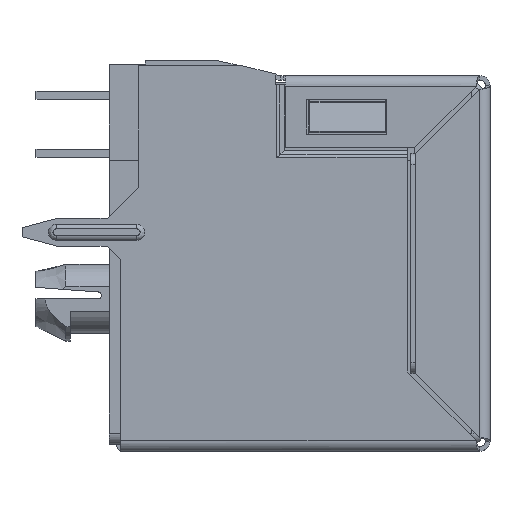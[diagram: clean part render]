
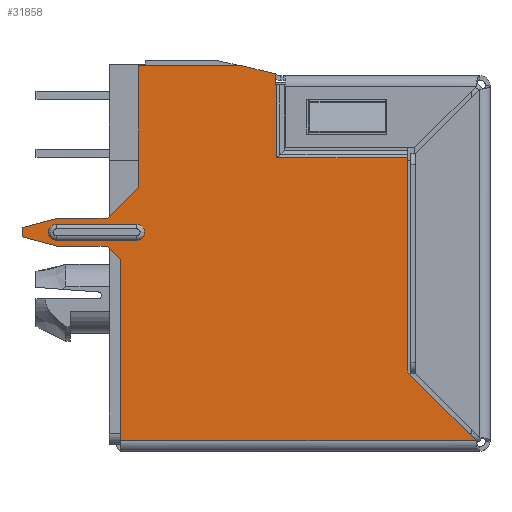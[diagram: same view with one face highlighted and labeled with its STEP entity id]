
A CAD part, left-side view. The second image highlights one B-rep face of the part: STEP entity #31858.
In plain terms, the highlighted planar face has unit normal (-1, 0, 0).
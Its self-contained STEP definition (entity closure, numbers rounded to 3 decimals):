
#27187=DIRECTION('',(0.,0.707,0.707));
#27188=VECTOR('',#27187,0.834);
#27189=CARTESIAN_POINT('',(14.57,22.311,-5.727));
#27190=LINE('',#27189,#27188);
#27191=DIRECTION('',(0.,0.966,0.259));
#27192=VECTOR('',#27191,1.545);
#27193=CARTESIAN_POINT('',(14.57,25.118,-5.137));
#27194=LINE('',#27193,#27192);
#27195=DIRECTION('',(0.,-0.966,0.259));
#27196=VECTOR('',#27195,1.545);
#27197=CARTESIAN_POINT('',(14.57,26.611,-4.337));
#27198=LINE('',#27197,#27196);
#27199=DIRECTION('',(0.,-0.707,0.707));
#27200=VECTOR('',#27199,1.937);
#27201=CARTESIAN_POINT('',(14.57,22.901,-3.937));
#27202=LINE('',#27201,#27200);
#27203=DIRECTION('',(0.,-0.972,-0.237));
#27204=VECTOR('',#27203,1.478);
#27205=CARTESIAN_POINT('',(14.57,16.997,2.713));
#27206=LINE('',#27205,#27204);
#27207=DIRECTION('',(0.,0.,-1.));
#27208=VECTOR('',#27207,0.47);
#27209=CARTESIAN_POINT('',(14.57,15.561,2.363));
#27210=LINE('',#27209,#27208);
#27211=DIRECTION('',(0.,-1.,0.));
#27212=VECTOR('',#27211,0.05);
#27213=CARTESIAN_POINT('',(14.57,15.561,1.893));
#27214=LINE('',#27213,#27212);
#27215=DIRECTION('',(0.,-0.707,-0.707));
#27216=VECTOR('',#27215,4.248);
#27217=CARTESIAN_POINT('',(14.57,9.811,-10.628));
#27218=LINE('',#27217,#27216);
#27219=CARTESIAN_POINT('',(14.57,25.111,-4.537));
#27220=DIRECTION('',(-1.,0.,0.));
#27221=DIRECTION('',(0.,0.,1.));
#27222=AXIS2_PLACEMENT_3D('',#27219,#27220,#27221);
#27224=CARTESIAN_POINT('',(14.57,21.611,-4.537));
#27225=DIRECTION('',(-1.,0.,0.));
#27226=DIRECTION('',(0.,0.,-1.));
#27227=AXIS2_PLACEMENT_3D('',#27224,#27225,#27226);
#27229=DIRECTION('',(0.,-1.,0.));
#27230=VECTOR('',#27229,15.504);
#27231=CARTESIAN_POINT('',(14.57,22.311,-13.632));
#27232=LINE('',#27231,#27230);
#28242=DIRECTION('',(0.,1.,0.));
#28243=VECTOR('',#28242,4.534);
#28244=CARTESIAN_POINT('',(14.57,16.997,2.713));
#28245=LINE('',#28244,#28243);
#29334=DIRECTION('',(0.,0.,-1.));
#29335=VECTOR('',#29334,5.28);
#29336=CARTESIAN_POINT('',(14.57,21.531,2.713));
#29337=LINE('',#29336,#29335);
#29350=DIRECTION('',(0.,1.,0.));
#29351=VECTOR('',#29350,2.217);
#29352=CARTESIAN_POINT('',(14.57,22.901,-3.937));
#29353=LINE('',#29352,#29351);
#29366=DIRECTION('',(0.,0.,-1.));
#29367=VECTOR('',#29366,0.4);
#29368=CARTESIAN_POINT('',(14.57,26.611,-4.337));
#29369=LINE('',#29368,#29367);
#29382=DIRECTION('',(0.,-1.,0.));
#29383=VECTOR('',#29382,2.217);
#29384=CARTESIAN_POINT('',(14.57,25.118,-5.137));
#29385=LINE('',#29384,#29383);
#29415=DIRECTION('',(0.,0.,-1.));
#29416=VECTOR('',#29415,7.905);
#29417=CARTESIAN_POINT('',(14.57,22.311,-5.727));
#29418=LINE('',#29417,#29416);
#29570=DIRECTION('',(0.,0.,1.));
#29571=VECTOR('',#29570,9.331);
#29572=CARTESIAN_POINT('',(14.57,9.811,-10.628));
#29573=LINE('',#29572,#29571);
#29670=DIRECTION('',(0.,1.,0.));
#29671=VECTOR('',#29670,5.7);
#29672=CARTESIAN_POINT('',(14.57,9.811,-1.297));
#29673=LINE('',#29672,#29671);
#29681=DIRECTION('',(0.,0.,1.));
#29682=VECTOR('',#29681,3.19);
#29683=CARTESIAN_POINT('',(14.57,15.511,-1.297));
#29684=LINE('',#29683,#29682);
#30037=DIRECTION('',(0.,1.,0.));
#30038=VECTOR('',#30037,3.5);
#30039=CARTESIAN_POINT('',(14.57,21.611,
-4.887));
#30040=LINE('',#30039,#30038);
#30064=DIRECTION('',(0.,-1.,0.));
#30065=VECTOR('',#30064,3.5);
#30066=CARTESIAN_POINT('',(14.57,25.111,-4.187));
#30067=LINE('',#30066,#30065);
#30318=CARTESIAN_POINT('',(14.57,15.561,1.893));
#30320=VERTEX_POINT('',#30318);
#30322=CARTESIAN_POINT('',(14.57,15.561,2.363));
#30323=VERTEX_POINT('',#30322);
#30324=CARTESIAN_POINT('',(14.57,15.511,1.893));
#30325=VERTEX_POINT('',#30324);
#30338=CARTESIAN_POINT('',(14.57,22.311,-5.727));
#30339=CARTESIAN_POINT('',(14.57,22.901,-5.137));
#30340=VERTEX_POINT('',#30338);
#30341=VERTEX_POINT('',#30339);
#30342=CARTESIAN_POINT('',(14.57,25.118,-5.137));
#30343=CARTESIAN_POINT('',(14.57,26.611,-4.737));
#30344=VERTEX_POINT('',#30342);
#30345=VERTEX_POINT('',#30343);
#30346=CARTESIAN_POINT('',(14.57,26.611,-4.337));
#30347=CARTESIAN_POINT('',(14.57,25.118,-3.937));
#30348=VERTEX_POINT('',#30346);
#30349=VERTEX_POINT('',#30347);
#30350=CARTESIAN_POINT('',(14.57,22.901,-3.937));
#30351=CARTESIAN_POINT('',(14.57,21.531,-2.567));
#30352=VERTEX_POINT('',#30350);
#30353=VERTEX_POINT('',#30351);
#30354=CARTESIAN_POINT('',(14.57,16.997,2.713));
#30355=VERTEX_POINT('',#30354);
#30356=CARTESIAN_POINT('',(14.57,9.811,-10.628));
#30357=CARTESIAN_POINT('',(14.57,6.807,-13.632));
#30358=VERTEX_POINT('',#30356);
#30359=VERTEX_POINT('',#30357);
#30360=CARTESIAN_POINT('',(14.57,25.111,-4.187));
#30361=CARTESIAN_POINT('',(14.57,25.111,-4.887));
#30362=VERTEX_POINT('',#30360);
#30363=VERTEX_POINT('',#30361);
#30364=CARTESIAN_POINT('',(14.57,21.611,-4.887));
#30365=CARTESIAN_POINT('',(14.57,21.611,-4.187));
#30366=VERTEX_POINT('',#30364);
#30367=VERTEX_POINT('',#30365);
#30372=CARTESIAN_POINT('',(14.57,22.311,-13.632));
#30373=VERTEX_POINT('',#30372);
#30734=CARTESIAN_POINT('',(14.57,21.531,2.713));
#30735=VERTEX_POINT('',#30734);
#30994=CARTESIAN_POINT('',(14.57,9.811,-1.297));
#30995=VERTEX_POINT('',#30994);
#31016=CARTESIAN_POINT('',(14.57,15.511,-1.297));
#31017=VERTEX_POINT('',#31016);
#31807=CARTESIAN_POINT('',(14.57,16.709,-5.459));
#31808=DIRECTION('',(1.,0.,0.));
#31809=DIRECTION('',(0.,1.,0.));
#31810=AXIS2_PLACEMENT_3D('',#31807,#31808,#31809);
#31811=PLANE('',#31810);
#31813=ORIENTED_EDGE('',*,*,#31812,.F.);
#31815=ORIENTED_EDGE('',*,*,#31814,.F.);
#31817=ORIENTED_EDGE('',*,*,#31816,.T.);
#31819=ORIENTED_EDGE('',*,*,#31818,.F.);
#31821=ORIENTED_EDGE('',*,*,#31820,.T.);
#31823=ORIENTED_EDGE('',*,*,#31822,.F.);
#31825=ORIENTED_EDGE('',*,*,#31824,.T.);
#31827=ORIENTED_EDGE('',*,*,#31826,.F.);
#31829=ORIENTED_EDGE('',*,*,#31828,.T.);
#31831=ORIENTED_EDGE('',*,*,#31830,.F.);
#31833=ORIENTED_EDGE('',*,*,#31832,.F.);
#31835=ORIENTED_EDGE('',*,*,#31834,.T.);
#31836=ORIENTED_EDGE('',*,*,#31768,.T.);
#31837=ORIENTED_EDGE('',*,*,#31785,.T.);
#31839=ORIENTED_EDGE('',*,*,#31838,.F.);
#31841=ORIENTED_EDGE('',*,*,#31840,.F.);
#31843=ORIENTED_EDGE('',*,*,#31842,.F.);
#31845=ORIENTED_EDGE('',*,*,#31844,.T.);
#31846=EDGE_LOOP('',(#31813,#31815,#31817,#31819,#31821,#31823,#31825,#31827,
#31829,#31831,#31833,#31835,#31836,#31837,#31839,#31841,#31843,#31845));
#31847=FACE_OUTER_BOUND('',#31846,.F.);
#31849=ORIENTED_EDGE('',*,*,#31848,.T.);
#31851=ORIENTED_EDGE('',*,*,#31850,.F.);
#31853=ORIENTED_EDGE('',*,*,#31852,.T.);
#31855=ORIENTED_EDGE('',*,*,#31854,.F.);
#31856=EDGE_LOOP('',(#31849,#31851,#31853,#31855));
#31857=FACE_BOUND('',#31856,.F.);
#31858=ADVANCED_FACE('',(#31847,#31857),#31811,.F.);
#27223=CIRCLE('',#27222,0.35);
#27228=CIRCLE('',#27227,0.35);
#31768=EDGE_CURVE('',#30323,#30320,#27210,.T.);
#31785=EDGE_CURVE('',#30320,#30325,#27214,.T.);
#31812=EDGE_CURVE('',#30373,#30359,#27232,.T.);
#31814=EDGE_CURVE('',#30340,#30373,#29418,.T.);
#31816=EDGE_CURVE('',#30340,#30341,#27190,.T.);
#31818=EDGE_CURVE('',#30344,#30341,#29385,.T.);
#31820=EDGE_CURVE('',#30344,#30345,#27194,.T.);
#31822=EDGE_CURVE('',#30348,#30345,#29369,.T.);
#31824=EDGE_CURVE('',#30348,#30349,#27198,.T.);
#31826=EDGE_CURVE('',#30352,#30349,#29353,.T.);
#31828=EDGE_CURVE('',#30352,#30353,#27202,.T.);
#31830=EDGE_CURVE('',#30735,#30353,#29337,.T.);
#31832=EDGE_CURVE('',#30355,#30735,#28245,.T.);
#31834=EDGE_CURVE('',#30355,#30323,#27206,.T.);
#31838=EDGE_CURVE('',#31017,#30325,#29684,.T.);
#31840=EDGE_CURVE('',#30995,#31017,#29673,.T.);
#31842=EDGE_CURVE('',#30358,#30995,#29573,.T.);
#31844=EDGE_CURVE('',#30358,#30359,#27218,.T.);
#31848=EDGE_CURVE('',#30362,#30363,#27223,.T.);
#31850=EDGE_CURVE('',#30366,#30363,#30040,.T.);
#31852=EDGE_CURVE('',#30366,#30367,#27228,.T.);
#31854=EDGE_CURVE('',#30362,#30367,#30067,.T.);
